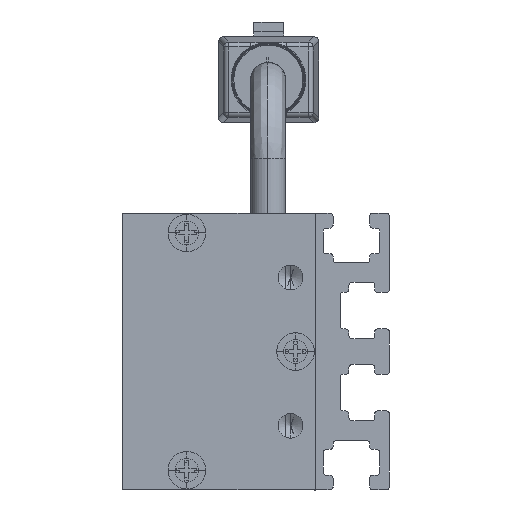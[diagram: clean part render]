
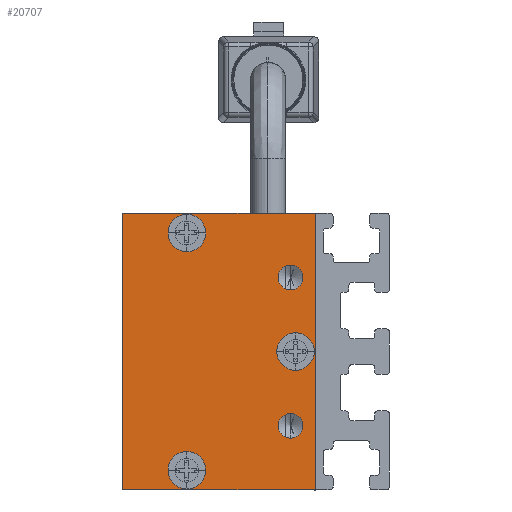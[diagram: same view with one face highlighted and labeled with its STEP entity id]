
A CAD part, left-side view. The second image highlights one B-rep face of the part: STEP entity #20707.
In plain terms, the highlighted planar face has unit normal (-1, 0, 0) as drawn and (0, 0, -1) by its records, which use the part's own axes.
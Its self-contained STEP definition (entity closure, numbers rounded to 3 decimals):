
#113 = CIRCLE ( 'NONE', #9286, 1.25 ) ;
#483 = DIRECTION ( 'NONE',  ( 0., 1., 0. ) ) ;
#488 = FACE_BOUND ( 'NONE', #23366, .T. ) ;
#574 = VERTEX_POINT ( 'NONE', #13008 ) ;
#740 = CIRCLE ( 'NONE', #1143, 1.25 ) ;
#843 = AXIS2_PLACEMENT_3D ( 'NONE', #3564, #16905, #24508 ) ;
#954 = ORIENTED_EDGE ( 'NONE', *, *, #20516, .F. ) ;
#1083 = CARTESIAN_POINT ( 'NONE',  ( -7.5, 2.5, -2.5 ) ) ;
#1143 = AXIS2_PLACEMENT_3D ( 'NONE', #1758, #5361, #14839 ) ;
#1490 = EDGE_CURVE ( 'NONE', #14162, #20658, #20247, .T. ) ;
#1507 = ORIENTED_EDGE ( 'NONE', *, *, #24259, .F. ) ;
#1758 = CARTESIAN_POINT ( 'NONE',  ( 7.5, 2.5, -2.5 ) ) ;
#1871 = PLANE ( 'NONE',  #18309 ) ;
#1948 = VERTEX_POINT ( 'NONE', #14033 ) ;
#2012 = DIRECTION ( 'NONE',  ( -1., 0., 0. ) ) ;
#2529 = CARTESIAN_POINT ( 'NONE',  ( 0., 2., -2.5 ) ) ;
#2680 = ORIENTED_EDGE ( 'NONE', *, *, #18450, .F. ) ;
#2819 = CARTESIAN_POINT ( 'NONE',  ( 13.9, 13., -2.5 ) ) ;
#3131 = VERTEX_POINT ( 'NONE', #20986 ) ;
#3564 = CARTESIAN_POINT ( 'NONE',  ( 12., 13., -2.5 ) ) ;
#3646 = CARTESIAN_POINT ( 'NONE',  ( -7.5, 2.5, -2.5 ) ) ;
#3713 = CIRCLE ( 'NONE', #18037, 1.9 ) ;
#3836 = CARTESIAN_POINT ( 'NONE',  ( 14., 0., -2.5 ) ) ;
#3874 = DIRECTION ( 'NONE',  ( 0., 0., -1. ) ) ;
#4117 = LINE ( 'NONE', #4590, #11941 ) ;
#4291 = EDGE_CURVE ( 'NONE', #7299, #14521, #13101, .T. ) ;
#4590 = CARTESIAN_POINT ( 'NONE',  ( 14., 19.5, -2.5 ) ) ;
#4674 = CIRCLE ( 'NONE', #22610, 1.9 ) ;
#4744 = AXIS2_PLACEMENT_3D ( 'NONE', #2529, #21234, #10116 ) ;
#5140 = DIRECTION ( 'NONE',  ( -1., 0., 0. ) ) ;
#5331 = CARTESIAN_POINT ( 'NONE',  ( 1.9, 2., -2.5 ) ) ;
#5347 = CIRCLE ( 'NONE', #19290, 1.25 ) ;
#5361 = DIRECTION ( 'NONE',  ( 0., 0., -1. ) ) ;
#5798 = DIRECTION ( 'NONE',  ( -1., 0., 0. ) ) ;
#5819 = CIRCLE ( 'NONE', #10189, 1.9 ) ;
#6211 = ORIENTED_EDGE ( 'NONE', *, *, #1490, .F. ) ;
#6221 = EDGE_CURVE ( 'NONE', #23332, #12824, #24425, .T. ) ;
#6408 = ORIENTED_EDGE ( 'NONE', *, *, #10922, .F. ) ;
#6523 = CARTESIAN_POINT ( 'NONE',  ( 14., 0., -2.5 ) ) ;
#6723 = VECTOR ( 'NONE', #21383, 1000. ) ;
#6889 = DIRECTION ( 'NONE',  ( -1., 0., 0. ) ) ;
#7044 = CIRCLE ( 'NONE', #23385, 1.9 ) ;
#7299 = VERTEX_POINT ( 'NONE', #5331 ) ;
#7441 = DIRECTION ( 'NONE',  ( 1., 0., 0. ) ) ;
#8092 = FACE_BOUND ( 'NONE', #9609, .T. ) ;
#8105 = DIRECTION ( 'NONE',  ( 0., 0., -1. ) ) ;
#9286 = AXIS2_PLACEMENT_3D ( 'NONE', #3646, #3874, #13456 ) ;
#9467 = CARTESIAN_POINT ( 'NONE',  ( 0., 0., -2.5 ) ) ;
#9609 = EDGE_LOOP ( 'NONE', ( #18077, #20901 ) ) ;
#10116 = DIRECTION ( 'NONE',  ( -1., 0., 0. ) ) ;
#10155 = LINE ( 'NONE', #12143, #6723 ) ;
#10182 = CARTESIAN_POINT ( 'NONE',  ( -1.9, 2., -2.5 ) ) ;
#10189 = AXIS2_PLACEMENT_3D ( 'NONE', #12373, #23986, #6889 ) ;
#10288 = ORIENTED_EDGE ( 'NONE', *, *, #18834, .F. ) ;
#10404 = EDGE_CURVE ( 'NONE', #24513, #3131, #3713, .T. ) ;
#10444 = DIRECTION ( 'NONE',  ( 0., 0., -1. ) ) ;
#10885 = DIRECTION ( 'NONE',  ( 0., 0., -1. ) ) ;
#10922 = EDGE_CURVE ( 'NONE', #20658, #14162, #113, .T. ) ;
#11079 = AXIS2_PLACEMENT_3D ( 'NONE', #1083, #10444, #13800 ) ;
#11117 = CARTESIAN_POINT ( 'NONE',  ( 8.75, 2.5, -2.5 ) ) ;
#11238 = CARTESIAN_POINT ( 'NONE',  ( -12., 13., -2.5 ) ) ;
#11272 = LINE ( 'NONE', #14638, #11379 ) ;
#11379 = VECTOR ( 'NONE', #18642, 1000. ) ;
#11941 = VECTOR ( 'NONE', #483, 1000. ) ;
#12143 = CARTESIAN_POINT ( 'NONE',  ( -14., 0., -2.5 ) ) ;
#12163 = EDGE_CURVE ( 'NONE', #20009, #574, #5347, .T. ) ;
#12373 = CARTESIAN_POINT ( 'NONE',  ( 12., 13., -2.5 ) ) ;
#12824 = VERTEX_POINT ( 'NONE', #6523 ) ;
#12827 = EDGE_CURVE ( 'NONE', #14521, #7299, #7044, .T. ) ;
#13008 = CARTESIAN_POINT ( 'NONE',  ( 6.25, 2.5, -2.5 ) ) ;
#13101 = CIRCLE ( 'NONE', #4744, 1.9 ) ;
#13456 = DIRECTION ( 'NONE',  ( -1., 0., 0. ) ) ;
#13800 = DIRECTION ( 'NONE',  ( -1., 0., 0. ) ) ;
#13805 = FACE_BOUND ( 'NONE', #15519, .T. ) ;
#14033 = CARTESIAN_POINT ( 'NONE',  ( -14., 19.5, -2.5 ) ) ;
#14078 = CARTESIAN_POINT ( 'NONE',  ( 7.5, 2.5, -2.5 ) ) ;
#14162 = VERTEX_POINT ( 'NONE', #17359 ) ;
#14521 = VERTEX_POINT ( 'NONE', #10182 ) ;
#14638 = CARTESIAN_POINT ( 'NONE',  ( -14., 19.5, -2.5 ) ) ;
#14839 = DIRECTION ( 'NONE',  ( -1., 0., 0. ) ) ;
#14972 = EDGE_CURVE ( 'NONE', #1948, #23332, #10155, .T. ) ;
#15052 = ORIENTED_EDGE ( 'NONE', *, *, #17390, .F. ) ;
#15318 = ORIENTED_EDGE ( 'NONE', *, *, #10404, .F. ) ;
#15519 = EDGE_LOOP ( 'NONE', ( #6408, #6211 ) ) ;
#15717 = DIRECTION ( 'NONE',  ( -1., 0., 0. ) ) ;
#16079 = ORIENTED_EDGE ( 'NONE', *, *, #12163, .F. ) ;
#16905 = DIRECTION ( 'NONE',  ( 0., 0., -1. ) ) ;
#17091 = DIRECTION ( 'NONE',  ( 0., 0., -1. ) ) ;
#17359 = CARTESIAN_POINT ( 'NONE',  ( -6.25, 2.5, -2.5 ) ) ;
#17390 = EDGE_CURVE ( 'NONE', #12824, #17684, #4117, .T. ) ;
#17590 = FACE_BOUND ( 'NONE', #21088, .T. ) ;
#17684 = VERTEX_POINT ( 'NONE', #22421 ) ;
#17958 = VERTEX_POINT ( 'NONE', #2819 ) ;
#18037 = AXIS2_PLACEMENT_3D ( 'NONE', #20905, #22897, #5798 ) ;
#18077 = ORIENTED_EDGE ( 'NONE', *, *, #12827, .F. ) ;
#18098 = ORIENTED_EDGE ( 'NONE', *, *, #18764, .F. ) ;
#18248 = CARTESIAN_POINT ( 'NONE',  ( 0., 2., -2.5 ) ) ;
#18309 = AXIS2_PLACEMENT_3D ( 'NONE', #9467, #17091, #2012 ) ;
#18450 = EDGE_CURVE ( 'NONE', #17684, #1948, #11272, .T. ) ;
#18621 = DIRECTION ( 'NONE',  ( -1., 0., 0. ) ) ;
#18642 = DIRECTION ( 'NONE',  ( -1., 0., 0. ) ) ;
#18746 = CARTESIAN_POINT ( 'NONE',  ( -14., 0., -2.5 ) ) ;
#18764 = EDGE_CURVE ( 'NONE', #17958, #23310, #5819, .T. ) ;
#18834 = EDGE_CURVE ( 'NONE', #3131, #24513, #4674, .T. ) ;
#19290 = AXIS2_PLACEMENT_3D ( 'NONE', #14078, #8105, #15717 ) ;
#19480 = VECTOR ( 'NONE', #7441, 1000. ) ;
#20009 = VERTEX_POINT ( 'NONE', #11117 ) ;
#20247 = CIRCLE ( 'NONE', #11079, 1.25 ) ;
#20516 = EDGE_CURVE ( 'NONE', #574, #20009, #740, .T. ) ;
#20658 = VERTEX_POINT ( 'NONE', #23063 ) ;
#20707 = ADVANCED_FACE ( 'NONE', ( #17590, #488, #8092, #23306, #13805, #21424 ), #1871, .T. ) ;
#20901 = ORIENTED_EDGE ( 'NONE', *, *, #4291, .F. ) ;
#20905 = CARTESIAN_POINT ( 'NONE',  ( -12., 13., -2.5 ) ) ;
#20986 = CARTESIAN_POINT ( 'NONE',  ( -10.1, 13., -2.5 ) ) ;
#21088 = EDGE_LOOP ( 'NONE', ( #1507, #18098 ) ) ;
#21234 = DIRECTION ( 'NONE',  ( 0., 0., -1. ) ) ;
#21383 = DIRECTION ( 'NONE',  ( 0., -1., 0. ) ) ;
#21424 = FACE_OUTER_BOUND ( 'NONE', #22745, .T. ) ;
#21667 = ORIENTED_EDGE ( 'NONE', *, *, #14972, .F. ) ;
#22345 = EDGE_LOOP ( 'NONE', ( #954, #16079 ) ) ;
#22355 = CARTESIAN_POINT ( 'NONE',  ( 10.1, 13., -2.5 ) ) ;
#22421 = CARTESIAN_POINT ( 'NONE',  ( 14., 19.5, -2.5 ) ) ;
#22610 = AXIS2_PLACEMENT_3D ( 'NONE', #11238, #24104, #5140 ) ;
#22649 = ORIENTED_EDGE ( 'NONE', *, *, #6221, .F. ) ;
#22745 = EDGE_LOOP ( 'NONE', ( #15052, #22649, #21667, #2680 ) ) ;
#22897 = DIRECTION ( 'NONE',  ( 0., 0., -1. ) ) ;
#23063 = CARTESIAN_POINT ( 'NONE',  ( -8.75, 2.5, -2.5 ) ) ;
#23306 = FACE_BOUND ( 'NONE', #22345, .T. ) ;
#23310 = VERTEX_POINT ( 'NONE', #22355 ) ;
#23332 = VERTEX_POINT ( 'NONE', #18746 ) ;
#23366 = EDGE_LOOP ( 'NONE', ( #15318, #10288 ) ) ;
#23385 = AXIS2_PLACEMENT_3D ( 'NONE', #18248, #10885, #18621 ) ;
#23986 = DIRECTION ( 'NONE',  ( 0., 0., -1. ) ) ;
#23989 = CARTESIAN_POINT ( 'NONE',  ( -13.9, 13., -2.5 ) ) ;
#24104 = DIRECTION ( 'NONE',  ( 0., 0., -1. ) ) ;
#24259 = EDGE_CURVE ( 'NONE', #23310, #17958, #24344, .T. ) ;
#24344 = CIRCLE ( 'NONE', #843, 1.9 ) ;
#24425 = LINE ( 'NONE', #3836, #19480 ) ;
#24508 = DIRECTION ( 'NONE',  ( -1., 0., 0. ) ) ;
#24513 = VERTEX_POINT ( 'NONE', #23989 ) ;
